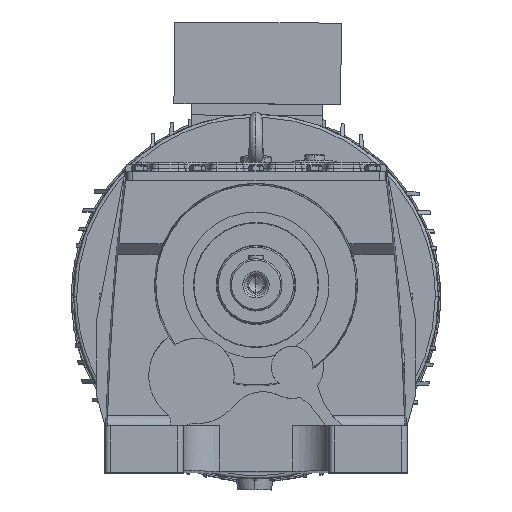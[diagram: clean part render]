
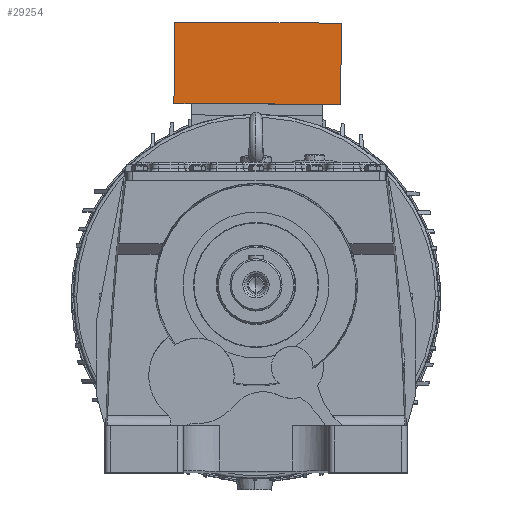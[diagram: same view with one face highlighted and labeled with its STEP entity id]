
A CAD part, top view. The second image highlights one B-rep face of the part: STEP entity #29254.
In plain terms, the highlighted planar face has unit normal (0, 0, 1).
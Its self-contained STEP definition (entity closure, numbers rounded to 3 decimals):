
#9724 = CARTESIAN_POINT ( 'NONE',  ( 80., 263., 156.5 ) ) ;
#9805 = CARTESIAN_POINT ( 'NONE',  ( 80., 185., 156.5 ) ) ;
#9806 = CARTESIAN_POINT ( 'NONE',  ( -80., 263., 156.5 ) ) ;
#10721 = VERTEX_POINT ( 'NONE', #9724 ) ;
#10741 = VERTEX_POINT ( 'NONE', #9805 ) ;
#10743 = VERTEX_POINT ( 'NONE', #9806 ) ;
#14291 = ORIENTED_EDGE ( 'NONE', *, *, #44430, .T. ) ;
#14296 = ORIENTED_EDGE ( 'NONE', *, *, #44427, .T. ) ;
#14297 = ORIENTED_EDGE ( 'NONE', *, *, #44420, .F. ) ;
#14346 = ORIENTED_EDGE ( 'NONE', *, *, #44477, .T. ) ;
#14953 = LINE ( 'NONE', #15743, #15007 ) ;
#14961 = VECTOR ( 'NONE', #24833, 1000. ) ;
#14994 = LINE ( 'NONE', #24811, #14961 ) ;
#15007 = VECTOR ( 'NONE', #15754, 1000. ) ;
#15743 = CARTESIAN_POINT ( 'NONE',  ( 80., 263., 156.5 ) ) ;
#15754 = DIRECTION ( 'NONE',  ( -1., 0., 0. ) ) ;
#16285 = CARTESIAN_POINT ( 'NONE',  ( -80., 185., 156.5 ) ) ;
#18961 = FACE_OUTER_BOUND ( 'NONE', #28542, .T. ) ;
#24767 = DIRECTION ( 'NONE',  ( -1., 0., 0. ) ) ;
#24794 = CARTESIAN_POINT ( 'NONE',  ( 80., 185., 156.5 ) ) ;
#24811 = CARTESIAN_POINT ( 'NONE',  ( 80., 263., 156.5 ) ) ;
#24828 = CARTESIAN_POINT ( 'NONE',  ( -80., 263., 156.5 ) ) ;
#24833 = DIRECTION ( 'NONE',  ( 0., 1., 0. ) ) ;
#24839 = DIRECTION ( 'NONE',  ( 0., -1., 0. ) ) ;
#28542 = EDGE_LOOP ( 'NONE', ( #14346, #14296, #14297, #14291 ) ) ;
#29254 = ADVANCED_FACE ( 'N', ( #18961 ), #49864, .F. ) ;
#44420 = EDGE_CURVE ( 'NONE', #10741, #59902, #63949, .T. ) ;
#44427 = EDGE_CURVE ( 'NONE', #10743, #59902, #64004, .T. ) ;
#44430 = EDGE_CURVE ( 'NONE', #10741, #10721, #14994, .T. ) ;
#44477 = EDGE_CURVE ( 'NONE', #10721, #10743, #14953, .T. ) ;
#49864 = PLANE ( 'NONE',  #55731 ) ;
#49875 = DIRECTION ( 'NONE',  ( -1., 0., 0. ) ) ;
#49887 = CARTESIAN_POINT ( 'NONE',  ( 80., 263., 156.5 ) ) ;
#49890 = DIRECTION ( 'NONE',  ( 0., 0., -1. ) ) ;
#55731 = AXIS2_PLACEMENT_3D ( 'NONE', #49887, #49890, #49875 ) ;
#59902 = VERTEX_POINT ( 'NONE', #16285 ) ;
#63914 = VECTOR ( 'NONE', #24767, 1000. ) ;
#63949 = LINE ( 'NONE', #24794, #63914 ) ;
#64004 = LINE ( 'NONE', #24828, #64430 ) ;
#64430 = VECTOR ( 'NONE', #24839, 1000. ) ;
